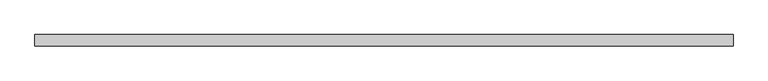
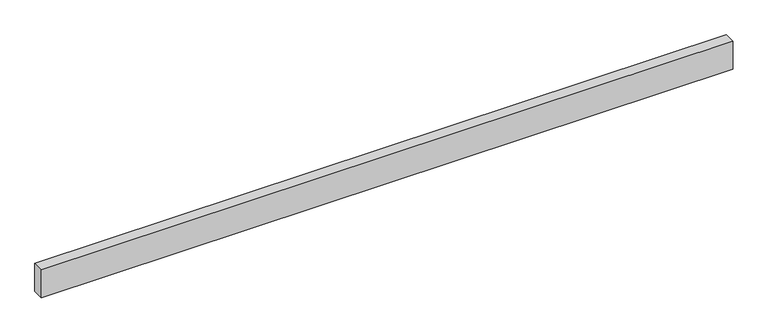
"""IFC4 building model written with IfcOpenShell, lengths in millimetres: beam geometry, Мерные пиломатериалы : 50х130."""

from ifc_helpers import new_model, si_unit, frame, origin, place, context, project, spatial, polyline, outline, extrude, source, transform, mapped, element, save


def beam_910e088e(model_context):
    return source(origin(), model_context, "Body", "SweptSolid", [
        extrude(outline(polyline([(1525.1536571, 25.0), (1525.1536571, -25.0), (-1525.1536571, -25.0), (-1525.1536571, 25.0), (1525.1536571, 25.0)])), frame((0.0, 0.0, -65.0), z_axis=(0.0, 0.0, 1.0), x_axis=(1.0, 0.0, 0.0)), (0.0, 0.0, 1.0), 130.0),
    ])


if __name__ == "__main__":
    model = new_model("IFC4")
    model_context = context("Model", 3, world=origin())
    ifc_project = project(units=[si_unit("LENGTHUNIT", "METRE", prefix="MILLI")], contexts=[model_context])
    site = spatial("IfcSite", under=ifc_project)
    building = spatial("IfcBuilding", under=site)
    placement = place(None, origin())
    beam_shape = beam_910e088e(model_context)
    element("IfcBeam", 1, ObjectType="Мерные пиломатериалы : 50х130", at=placement, inside=building, context=model_context, shape_type="MappedRepresentation", body=[
        mapped(beam_shape, transform((0.0, 0.0, 0.0), x_axis=(1.0, 0.0, 0.0), y_axis=(0.0, 1.0, 0.0), z_axis=(0.0, 0.0, 1.0))),
    ])
    save(model, "model.ifc")
